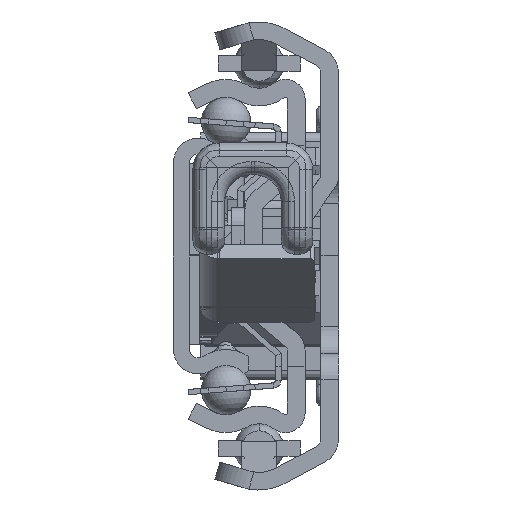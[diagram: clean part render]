
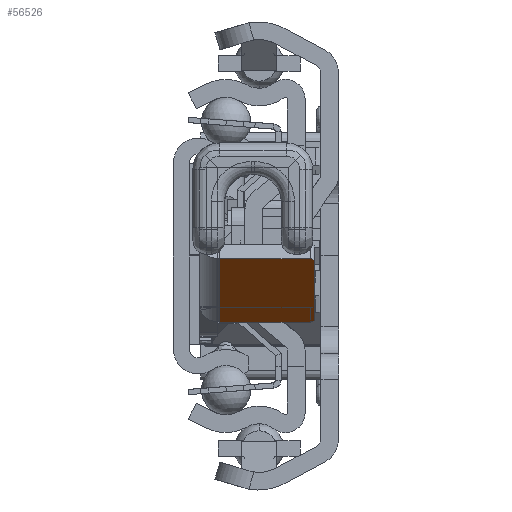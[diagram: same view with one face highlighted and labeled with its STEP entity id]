
A CAD part, left-side view. The second image highlights one B-rep face of the part: STEP entity #56526.
In plain terms, the highlighted planar face has unit normal (-0.597, 0, -0.802) as drawn and (-0.597, -0.802, 0) by its records, which use the part's own axes.
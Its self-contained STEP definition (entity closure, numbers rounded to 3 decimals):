
#55918=DIRECTION('',(0.802,-0.597,0.));
#55919=VECTOR('',#55918,12.);
#55920=CARTESIAN_POINT('',(31.957,-10.314,2.2));
#55921=LINE('',#55920,#55919);
#55946=CARTESIAN_POINT('',(41.184,-17.178,12.5));
#55947=DIRECTION('',(-0.597,-0.802,0.));
#55948=DIRECTION('',(0.802,-0.597,0.));
#55949=AXIS2_PLACEMENT_3D('',#55946,#55947,#55948);
#55951=DIRECTION('',(0.,0.,1.));
#55952=VECTOR('',#55951,10.3);
#55953=CARTESIAN_POINT('',(41.586,-17.476,2.2));
#55954=LINE('',#55953,#55952);
#55955=DIRECTION('',(0.,0.,-1.));
#55956=VECTOR('',#55955,10.3);
#55957=CARTESIAN_POINT('',(31.957,-10.314,12.5));
#55958=LINE('',#55957,#55956);
#55959=CARTESIAN_POINT('',(32.358,-10.613,12.5));
#55960=DIRECTION('',(-0.597,-0.802,0.));
#55961=DIRECTION('',(0.,0.,1.));
#55962=AXIS2_PLACEMENT_3D('',#55959,#55960,#55961);
#55964=DIRECTION('',(-0.802,0.597,0.));
#55965=VECTOR('',#55964,11.);
#55966=CARTESIAN_POINT('',(41.184,-17.178,13.));
#55967=LINE('',#55966,#55965);
#56180=CARTESIAN_POINT('',(31.957,-10.314,2.2));
#56181=CARTESIAN_POINT('',(41.586,-17.476,2.2));
#56182=VERTEX_POINT('',#56180);
#56183=VERTEX_POINT('',#56181);
#56212=CARTESIAN_POINT('',(41.586,-17.476,12.5));
#56213=CARTESIAN_POINT('',(41.184,-17.178,13.));
#56214=VERTEX_POINT('',#56212);
#56215=VERTEX_POINT('',#56213);
#56220=CARTESIAN_POINT('',(32.358,-10.613,13.));
#56221=CARTESIAN_POINT('',(31.957,-10.314,12.5));
#56222=VERTEX_POINT('',#56220);
#56223=VERTEX_POINT('',#56221);
#56508=CARTESIAN_POINT('',(34.726,-12.374,0.));
#56509=DIRECTION('',(-0.597,-0.802,0.));
#56510=DIRECTION('',(0.802,-0.597,0.));
#56511=AXIS2_PLACEMENT_3D('',#56508,#56509,#56510);
#56512=PLANE('',#56511);
#56514=ORIENTED_EDGE('',*,*,#56513,.F.);
#56516=ORIENTED_EDGE('',*,*,#56515,.F.);
#56517=ORIENTED_EDGE('',*,*,#56495,.F.);
#56519=ORIENTED_EDGE('',*,*,#56518,.F.);
#56521=ORIENTED_EDGE('',*,*,#56520,.F.);
#56523=ORIENTED_EDGE('',*,*,#56522,.F.);
#56524=EDGE_LOOP('',(#56514,#56516,#56517,#56519,#56521,#56523));
#56525=FACE_OUTER_BOUND('',#56524,.F.);
#55950=CIRCLE('',#55949,0.5);
#55963=CIRCLE('',#55962,0.5);
#56495=EDGE_CURVE('',#56182,#56183,#55921,.T.);
#56513=EDGE_CURVE('',#56214,#56215,#55950,.T.);
#56515=EDGE_CURVE('',#56183,#56214,#55954,.T.);
#56518=EDGE_CURVE('',#56223,#56182,#55958,.T.);
#56520=EDGE_CURVE('',#56222,#56223,#55963,.T.);
#56522=EDGE_CURVE('',#56215,#56222,#55967,.T.);
#56526=ADVANCED_FACE('',(#56525),#56512,.T.);
